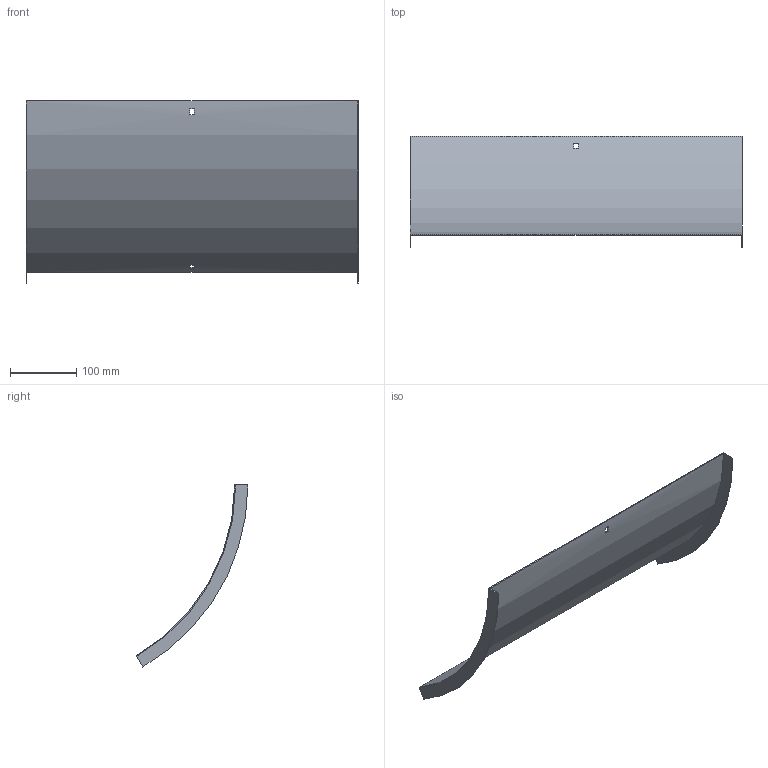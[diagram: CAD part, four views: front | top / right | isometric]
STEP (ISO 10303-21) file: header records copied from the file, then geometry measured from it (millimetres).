
FILE_DESCRIPTION (( 'STEP AP214' ), '1' );
FILE_NAME ('B2X40N3R500X.step', '2025-03-20T09:44:41', ( '' ), ( '' ), 'SwSTEP 2.0', 'SolidWorks 2023', '' );
FILE_SCHEMA (( 'AUTOMOTIVE_DESIGN' ));
Length unit declared in the file: millimetre
Products named in the file (1): B2X40N3R500X
Bounding box: 503 x 169.25 x 275.83 mm (x, y, z)
Volume: 254238.3 mm3; surface area: 341695.7 mm2
Topology: 1 solids, 1 shells, 18 faces, 48 edges, 32 vertices
Faces by surface type: plane 14, cylinder 4
Entity records: 599 total; most frequent: DIRECTION 102, CARTESIAN_POINT 99, ORIENTED_EDGE 96, EDGE_CURVE 48, AXIS2_PLACEMENT_3D 35, VECTOR 32, LINE 32, VERTEX_POINT 32
